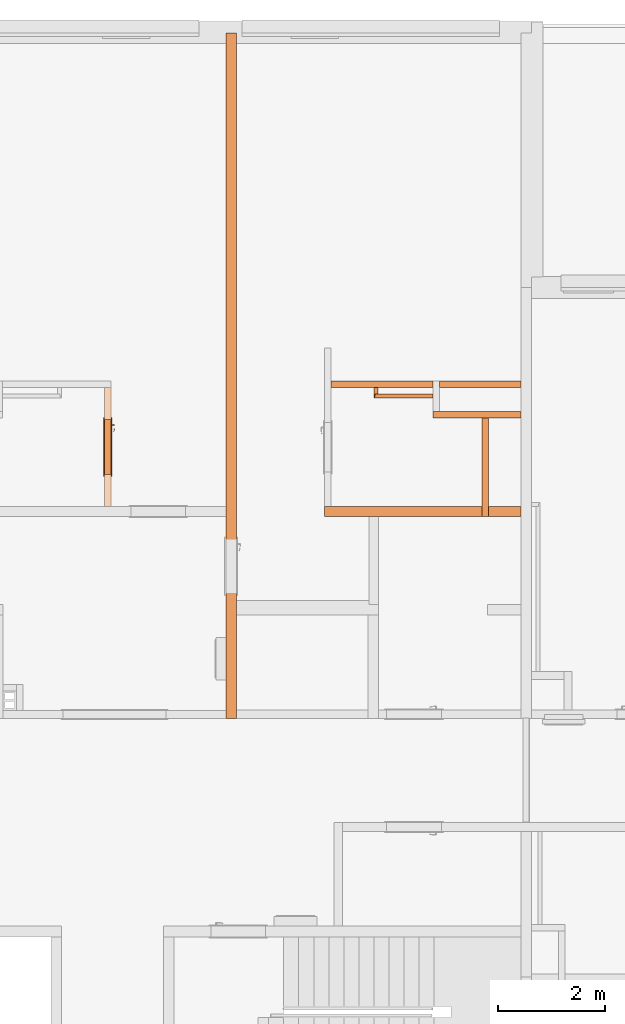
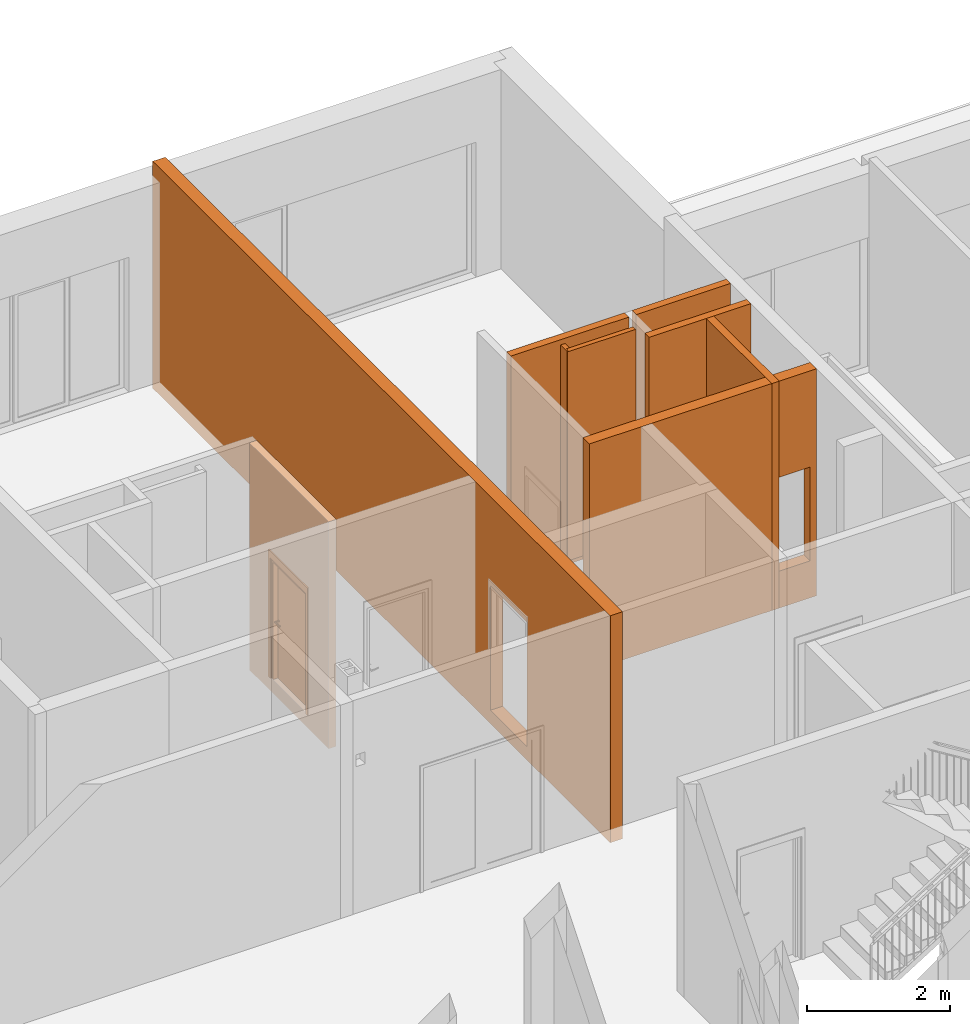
# One storey, part 42 of 46: 8 proxies, 3 openings, plus 1 element that does not belong to this part.
"""IFC2X3 building model written with IfcOpenShell, lengths in millimetres."""

from ifc_helpers import new_model, entity, si_unit, converted_unit, derived_unit, money_unit, direction, frame, origin_with_axes, origin_2d_with_axis, place, context, subcontext, project, spatial, rectangle, extrude, open_shell, faceted_brep, surface_model, material, material_list, type_object, element, fill, save


model = new_model("IFC2X3")

# Units and contexts
model_context = context("Model", 3, precision=0.01, world=origin_with_axes(), true_north=direction((0.34421633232, 0.938890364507)))
body_context = subcontext(model_context, "Body", "Model", "MODEL_VIEW")
ifc_project = project(units=[si_unit("LENGTHUNIT", "METRE", prefix="MILLI"), si_unit("AREAUNIT", "SQUARE_METRE"), si_unit("VOLUMEUNIT", "CUBIC_METRE"), converted_unit("PLANEANGLEUNIT", "DEGREE", entity("IfcPlaneAngleMeasure", 0.0174532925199), si_unit("PLANEANGLEUNIT", "RADIAN"), dimensions=[0, 0, 0, 0, 0, 0, 0]), si_unit("SOLIDANGLEUNIT", "STERADIAN"), money_unit("USD"), converted_unit("TIMEUNIT", "Year", entity("IfcTimeMeasure", 31556926.0), si_unit("TIMEUNIT", "SECOND"), dimensions=[0, 0, 1, 0, 0, 0, 0]), si_unit("MASSUNIT", "GRAM", prefix="KILO"), si_unit("THERMODYNAMICTEMPERATUREUNIT", "DEGREE_CELSIUS"), si_unit("LUMINOUSINTENSITYUNIT", "LUMEN"), si_unit("ENERGYUNIT", "JOULE", prefix="MEGA"), derived_unit("THERMALCONDUCTANCEUNIT", [(si_unit("POWERUNIT", "WATT"), 1), (si_unit("LENGTHUNIT", "METRE"), -1), (si_unit("THERMODYNAMICTEMPERATUREUNIT", "KELVIN"), -1)]), derived_unit("SPECIFICHEATCAPACITYUNIT", [(si_unit("ENERGYUNIT", "JOULE"), 1), (si_unit("MASSUNIT", "GRAM", prefix="KILO"), -1), (si_unit("THERMODYNAMICTEMPERATUREUNIT", "KELVIN"), -1)]), derived_unit("MASSDENSITYUNIT", [(si_unit("MASSUNIT", "GRAM", prefix="KILO"), 1), (si_unit("VOLUMEUNIT", "CUBIC_METRE"), -1)])], contexts=[model_context])

# Site, building, storey
site_placement = place(None, origin_with_axes())
site = spatial("IfcSite", under=ifc_project, at=site_placement, Name="USTRONIE MORSKIE", CompositionType="ELEMENT")
building_placement = place(site_placement, origin_with_axes())
building = spatial("IfcBuilding", under=site, at=building_placement, Name="Budynek", CompositionType="ELEMENT")
storey_placement = place(building_placement, origin_with_axes())
storey = spatial("IfcBuildingStorey", under=building, at=storey_placement, Name="PARTER", CompositionType="ELEMENT", Elevation=0.0)

# Proxy
ifc_material_1 = material(Name="Bloczki silikatowe")
building_element_proxy_type_1 = type_object("IfcBuildingElementProxyType", Name="Bloczki silikatowe 120", PredefinedType="NOTDEFINED")
proxy_1_placement = place(storey_placement, frame((396317.911316, 742431.199937, -230.0), z_axis=(0.0, 0.0, 1.0), x_axis=(-1.0, 0.0, 0.0)))
element("IfcBuildingElementProxy", 1, at=proxy_1_placement, inside=storey, type_object=building_element_proxy_type_1, material=ifc_material_1, Name="Ściana-010", context=body_context, shape_type="Brep", body=[
    faceted_brep([(1739.99039729, 59.9999999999, 0.0), (1739.99039729, -59.9999999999, 0.0), (99.9903972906, -59.9999999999, 0.0), (99.9903972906, 59.9999999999, 0.0), (1739.99039729, 59.9999999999, 3870.0), (1739.99039729, -59.9999999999, 3870.0), (99.9903972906, -59.9999999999, 3870.0), (99.9903972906, 59.9999999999, 3870.0)], [[[0, 1, 2, 3]], [[1, 0, 4, 5]], [[1, 5, 6, 2]], [[7, 3, 2, 6]], [[4, 0, 3, 7]], [[5, 4, 7, 6]]]),
])

# Proxies, opening
proxy_2_placement = place(storey_placement, frame((388517.920919, 743001.199021, -230.0), z_axis=(0.0, 0.0, 1.0), x_axis=(0.0, -1.0, 0.0)))
proxy_2 = element("IfcBuildingElementProxy", 2, at=proxy_2_placement, inside=storey, type_object=building_element_proxy_type_1, material=ifc_material_1, Name="SW-04", context=body_context, shape_type="Brep", body=[
    faceted_brep([(2279.99998521, -60.0, 3870.0), (2279.99998521, 60.0, 3870.0), (59.9999999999, 60.0, 3870.0), (59.9999999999, -60.0, 3870.0), (2279.99998521, -60.0, 0.0), (2279.99998521, 60.0, 0.0), (59.9999999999, 60.0, 0.0), (59.9999999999, -60.0, 0.0)], [[[0, 1, 2, 3]], [[1, 0, 4, 5]], [[1, 5, 6, 2]], [[7, 3, 2, 6]], [[4, 0, 3, 7]], [[5, 4, 7, 6]]]),
])
opening_1_placement = place(proxy_2_placement, frame((1170.0, 0.0, 230.0), z_axis=(0.0, 0.0, 1.0), x_axis=(1.0, 0.0, 0.0)))
opening_1 = element("IfcOpeningElement", 3, at=opening_1_placement, cuts=proxy_2, Name="Dw.4'", context=body_context, shape_type="SweptSolid", body=[
    extrude(rectangle(XDim=1020.0, YDim=2070.0, at=origin_2d_with_axis()), frame((0.0, -120.0, 1035.0), z_axis=(0.0, 1.0, 0.0), x_axis=(1.0, 0.0, 0.0)), (0.0, 0.0, 1.0), 360.0),
    extrude(rectangle(XDim=1094.0, YDim=2177.0, at=origin_2d_with_axis()), frame((0.0, -60.0, 1088.5), z_axis=(0.0, 1.0, 0.0), x_axis=(1.0, 0.0, 0.0)), (0.0, 0.0, -1.0), 120.0),
    extrude(rectangle(XDim=1094.0, YDim=2177.0, at=origin_2d_with_axis()), frame((0.0, 60.0, 1088.5), z_axis=(0.0, -1.0, 0.0), x_axis=(1.0, 0.0, 0.0)), (0.0, 0.0, -1.0), 120.0),
])
building_element_proxy_type_2 = type_object("IfcBuildingElementProxyType", Name="Drzwi 23", PredefinedType="NOTDEFINED")
proxy_3_placement = place(opening_1_placement, frame((-450.0, 0.0, 0.0), z_axis=(0.0, 0.0, 1.0), x_axis=(1.0, 0.0, 0.0)))
proxy_3 = element("IfcBuildingElementProxy", 4, at=proxy_3_placement, inside=storey, type_object=building_element_proxy_type_2, Name="Dw.4'", context=body_context, shape_type="SurfaceModel", body=[
    faceted_brep([(-59.9999999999, -55.0, 0.0), (-35.0, -55.0, 0.0), (-35.0, -60.0, 0.0), (-59.9999999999, -60.0, 0.0), (-59.9999999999, -55.0, 2070.0), (-35.0, -55.0, 2045.0), (-35.0, -60.0, 2045.0), (-59.9999999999, -60.0, 2070.0)], [[[0, 1, 2, 3]], [[0, 4, 5, 1]], [[1, 5, 6, 2]], [[3, 2, 6, 7]], [[4, 0, 3, 7]], [[5, 4, 7, 6]]]),
    faceted_brep([(960.0, -55.0, 2070.0), (935.0, -55.0, 2045.0), (935.0, -60.0, 2045.0), (960.0, -60.0, 2070.0), (960.0, -55.0, 0.0), (935.0, -55.0, 0.0), (935.0, -60.0, 0.0), (960.0, -60.0, 0.0)], [[[0, 1, 2, 3]], [[0, 4, 5, 1]], [[1, 5, 6, 2]], [[3, 2, 6, 7]], [[4, 0, 3, 7]], [[5, 4, 7, 6]]]),
    faceted_brep([(-35.0, -55.0, 2045.0), (935.0, -55.0, 2045.0), (935.0, -60.0, 2045.0), (-35.0, -60.0, 2045.0), (-59.9999999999, -55.0, 2070.0), (960.0, -55.0, 2070.0), (960.0, -60.0, 2070.0), (-59.9999999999, -60.0, 2070.0)], [[[0, 1, 2, 3]], [[0, 4, 5, 1]], [[1, 5, 6, 2]], [[3, 2, 6, 7]], [[4, 0, 3, 7]], [[5, 4, 7, 6]]]),
    faceted_brep([(-97.0, -79.0, 0.0), (-97.0, -60.0, 0.0), (-46.9999999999, -60.0, 0.0), (-46.9999999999, -79.0, 0.0), (-97.0, -79.0, 2177.0), (-97.0, -60.0, 2177.0), (-46.9999999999, -60.0, 2057.0), (-46.9999999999, -79.0, 2057.0)], [[[0, 1, 2, 3]], [[4, 5, 1, 0]], [[1, 5, 6, 2]], [[3, 2, 6, 7]], [[0, 3, 7, 4]], [[7, 6, 5, 4]]]),
    faceted_brep([(997.0, -79.0, 2177.0), (997.0, -60.0, 2177.0), (947.0, -60.0, 2057.0), (947.0, -79.0, 2057.0), (997.0, -79.0, 0.0), (997.0, -60.0, 0.0), (947.0, -60.0, 0.0), (947.0, -79.0, 0.0)], [[[0, 1, 2, 3]], [[4, 5, 1, 0]], [[1, 5, 6, 2]], [[3, 2, 6, 7]], [[0, 3, 7, 4]], [[7, 6, 5, 4]]]),
    faceted_brep([(-97.0, -79.0, 2177.0), (-97.0, -60.0, 2177.0), (-46.9999999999, -60.0, 2057.0), (-46.9999999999, -79.0, 2057.0), (997.0, -79.0, 2177.0), (997.0, -60.0, 2177.0), (947.0, -60.0, 2057.0), (947.0, -79.0, 2057.0)], [[[0, 1, 2, 3]], [[4, 5, 1, 0]], [[1, 5, 6, 2]], [[3, 2, 6, 7]], [[0, 3, 7, 4]], [[7, 6, 5, 4]]]),
    faceted_brep([(-97.0, 79.0, 0.0), (-46.9999999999, 79.0, 0.0), (-46.9999999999, 60.0, 0.0), (-97.0, 60.0, 0.0), (-97.0, 79.0, 2177.0), (-46.9999999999, 79.0, 2057.0), (-46.9999999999, 60.0, 2057.0), (-97.0, 60.0, 2177.0)], [[[0, 1, 2, 3]], [[0, 4, 5, 1]], [[1, 5, 6, 2]], [[3, 2, 6, 7]], [[4, 0, 3, 7]], [[5, 4, 7, 6]]]),
    faceted_brep([(997.0, 79.0, 2177.0), (947.0, 79.0, 2057.0), (947.0, 60.0, 2057.0), (997.0, 60.0, 2177.0), (997.0, 79.0, 0.0), (947.0, 79.0, 0.0), (947.0, 60.0, 0.0), (997.0, 60.0, 0.0)], [[[0, 1, 2, 3]], [[0, 4, 5, 1]], [[1, 5, 6, 2]], [[3, 2, 6, 7]], [[4, 0, 3, 7]], [[5, 4, 7, 6]]]),
    faceted_brep([(-97.0, 79.0, 2177.0), (-46.9999999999, 79.0, 2057.0), (-46.9999999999, 60.0, 2057.0), (-97.0, 60.0, 2177.0), (997.0, 79.0, 2177.0), (947.0, 79.0, 2057.0), (947.0, 60.0, 2057.0), (997.0, 60.0, 2177.0)], [[[0, 1, 2, 3]], [[0, 4, 5, 1]], [[1, 5, 6, 2]], [[3, 2, 6, 7]], [[4, 0, 3, 7]], [[5, 4, 7, 6]]]),
    faceted_brep([(0.0, 20.0, 0.0), (0.0, 20.0, 2000.0), (0.0, -55.0, 2000.0), (0.0, -55.0, 0.0), (-11.9999999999, 20.0, 2000.0), (-11.9999999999, 20.0, 0.0), (-11.9999999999, 60.0, 2000.0), (-59.9999999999, 60.0, 2000.0), (-59.9999999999, -55.0, 2000.0), (-59.9999999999, -55.0, 0.0), (-59.9999999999, 60.0, 0.0), (-11.9999999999, 60.0, 0.0)], [[[0, 1, 2, 3]], [[4, 1, 0, 5]], [[4, 6, 7, 8, 2, 1]], [[3, 2, 8, 9]], [[5, 0, 3, 9, 10, 11]], [[6, 4, 5, 11]], [[6, 11, 10, 7]], [[10, 9, 8, 7]]]),
    faceted_brep([(912.0, 20.0, 2000.0), (900.0, 20.0, 2000.0), (900.0, -55.0, 2000.0), (960.0, -55.0, 2000.0), (960.0, 60.0, 2000.0), (912.0, 60.0, 2000.0), (912.0, 20.0, 0.0), (900.0, 20.0, 0.0), (900.0, -55.0, 0.0), (960.0, -55.0, 0.0), (960.0, 60.0, 0.0), (912.0, 60.0, 0.0)], [[[0, 1, 2, 3, 4, 5]], [[1, 0, 6, 7]], [[1, 7, 8, 2]], [[3, 2, 8, 9]], [[4, 3, 9, 10]], [[11, 5, 4, 10]], [[0, 5, 11, 6]], [[6, 11, 10, 9, 8, 7]]]),
    faceted_brep([(-11.9999999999, 60.0, 2012.0), (-11.9999999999, 60.0, 2000.0), (-59.9999999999, 60.0, 2000.0), (-59.9999999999, 60.0, 2070.0), (960.0, 60.0, 2070.0), (960.0, 60.0, 2000.0), (912.0, 60.0, 2000.0), (912.0, 60.0, 2012.0), (-11.9999999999, 20.0, 2012.0), (-11.9999999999, 20.0, 2000.0), (0.0, 20.0, 2000.0), (0.0, -55.0, 2000.0), (-59.9999999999, -55.0, 2000.0), (-59.9999999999, -55.0, 2070.0), (960.0, -55.0, 2070.0), (960.0, -55.0, 2000.0), (912.0, 20.0, 2000.0), (900.0, -55.0, 2000.0), (900.0, 20.0, 2000.0), (912.0, 20.0, 2012.0)], [[[0, 1, 2, 3, 4, 5, 6, 7]], [[1, 0, 8, 9]], [[9, 10, 11, 12, 2, 1]], [[2, 12, 13, 3]], [[3, 13, 14, 4]], [[4, 14, 15, 5]], [[16, 6, 5, 15, 17, 18]], [[7, 6, 16, 19]], [[0, 7, 19, 8]], [[16, 18, 10, 9, 8, 19]], [[10, 18, 17, 11]], [[17, 15, 14, 13, 12, 11]]]),
    faceted_brep([(9.5, 20.0, 1060.0), (9.5, 17.0, 1060.0), (66.5, 17.0, 1060.0), (66.5, 20.0, 1060.0), (9.5, 20.0, 870.0), (9.5, 17.0, 870.0), (66.5, 17.0, 870.0), (66.5, 20.0, 870.0)], [[[0, 1, 2, 3]], [[4, 5, 1, 0]], [[1, 5, 6, 2]], [[3, 2, 6, 7]], [[0, 3, 7, 4]], [[7, 6, 5, 4]]]),
    faceted_brep([(38.0, -44.0, 990.0), (38.0, -51.0, 990.0), (33.0, -51.0, 991.339745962), (33.0, -44.0, 991.339745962), (63.0000000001, -44.0, 990.0), (63.0000000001, -51.0, 990.0), (63.0000000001, -51.0, 1010.0), (38.0, -51.0, 1010.0), (33.0, -51.0, 1008.66025404), (29.3397459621, -51.0, 1005.0), (28.0, -51.0, 1000.0), (29.3397459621, -51.0, 995.0), (29.3397459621, -44.0, 995.0), (28.0, -44.0, 1000.0), (29.3397459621, -44.0, 1005.0), (33.0, -44.0, 1008.66025404), (38.0, -44.0, 1010.0), (63.0000000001, -44.0, 1010.0)], [[[0, 1, 2, 3]], [[4, 5, 1, 0]], [[1, 5, 6, 7, 8, 9, 10, 11, 2]], [[3, 2, 11, 12]], [[0, 3, 12, 13, 14, 15, 16, 17, 4]], [[17, 6, 5, 4]], [[16, 7, 6, 17]], [[15, 8, 7, 16]], [[14, 9, 8, 15]], [[13, 10, 9, 14]], [[12, 11, 10, 13]]]),
    surface_model("IfcShellBasedSurfaceModel", [(63.0000000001, -44.0, 1010.0), (76.403909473, -51.0, 1009.60730092), (76.0982828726, -44.0, 1009.60730092), (63.0000000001, -51.0, 1010.0), (103.109716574, -48.6635446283, 1008.82190275), (76.0982828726, -44.0, 990.392699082), (63.0000000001, -44.0, 990.0), (63.0000000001, -51.0, 990.0), (76.403909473, -51.0, 990.392699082), (103.109716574, -48.6635446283, 991.178097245), (102.195162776, -41.716818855, 1008.82190275), (102.195162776, -41.716818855, 991.178097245), (129.510264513, -44.0084157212, 991.963495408), (129.510264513, -44.0084157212, 1008.03650459), (127.993743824, -37.1678329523, 1008.03650459), (127.993743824, -37.1678329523, 991.963495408), (155.40462918, -37.0700416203, 992.748893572), (155.40462918, -37.0700416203, 1007.25110643), (153.297683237, -30.3876628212, 1007.25110643), (153.297683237, -30.3876628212, 992.748893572), (163.461204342, -34.1376880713, 993.0), (163.461204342, -34.1376880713, 1007.0), (161.170557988, -27.5221707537, 1007.0), (161.170557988, -27.5221707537, 993.0)], [open_shell([[[0, 1, 2]], [[0, 3, 1]], [[2, 1, 4]], [[0, 2, 5, 6]], [[3, 7, 8, 1]], [[1, 8, 9, 4]], [[2, 4, 10]], [[2, 10, 11, 5]], [[5, 7, 6]], [[5, 8, 7]], [[11, 9, 8]], [[4, 9, 12, 13]], [[10, 4, 13]], [[10, 14, 15, 11]], [[11, 8, 5]], [[15, 9, 11]], [[15, 12, 9]], [[13, 12, 16, 17]], [[10, 13, 14]], [[14, 18, 19, 15]], [[19, 12, 15]], [[19, 16, 12]], [[17, 16, 20, 21]], [[14, 13, 17]], [[14, 17, 18]], [[18, 22, 23, 19]], [[23, 16, 19]], [[23, 20, 16]], [[22, 21, 20, 23]], [[18, 17, 21]], [[18, 21, 22]]])]),
    faceted_brep([(48.3923048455, 7.00000000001, 994.0), (49.2583302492, 17.0, 993.5), (51.0, 17.0, 1000.0), (50.0000000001, 7.00000000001, 1000.0), (44.0000000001, 7.00000000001, 989.607695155), (44.5000000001, 17.0, 988.741669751), (38.0, 17.0, 987.0), (31.5000000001, 17.0, 988.741669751), (26.7416697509, 17.0, 993.5), (25.0000000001, 17.0, 1000.0), (26.7416697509, 17.0, 1006.5), (31.5000000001, 17.0, 1011.25833025), (38.0, 17.0, 1013.0), (44.5000000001, 17.0, 1011.25833025), (49.2583302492, 17.0, 1006.5), (48.3923048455, 7.00000000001, 1006.0), (44.0000000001, 7.00000000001, 1010.39230485), (38.0, 7.00000000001, 1012.0), (32.0, 7.00000000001, 1010.39230485), (27.6076951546, 7.00000000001, 1006.0), (26.0000000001, 7.00000000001, 1000.0), (27.6076951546, 7.00000000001, 994.0), (32.0, 7.00000000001, 989.607695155), (38.0, 7.00000000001, 988.0)], [[[0, 1, 2, 3]], [[4, 5, 1, 0]], [[2, 1, 5, 6, 7, 8, 9, 10, 11, 12, 13, 14]], [[3, 2, 14, 15]], [[3, 15, 16, 17, 18, 19, 20, 21, 22, 23, 4, 0]], [[23, 6, 5, 4]], [[22, 7, 6, 23]], [[21, 8, 7, 22]], [[20, 9, 8, 21]], [[19, 10, 9, 20]], [[18, 11, 10, 19]], [[17, 12, 11, 18]], [[16, 13, 12, 17]], [[15, 14, 13, 16]]]),
    faceted_brep([(55.3205080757, 13.0, 895.0), (57.0525588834, 17.0, 894.0), (60.0000000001, 17.0, 905.0), (58.0, 13.0, 905.0), (48.0, 13.0, 887.679491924), (49.0000000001, 17.0, 885.947441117), (38.0, 17.0, 883.0), (27.0, 17.0, 885.947441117), (18.9474411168, 17.0, 894.0), (16.0000000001, 17.0, 905.0), (18.9474411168, 17.0, 916.0), (27.0, 17.0, 924.052558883), (38.0, 17.0, 927.0), (49.0000000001, 17.0, 924.052558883), (57.0525588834, 17.0, 916.0), (55.3205080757, 13.0, 915.0), (48.0, 13.0, 922.320508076), (38.0, 13.0, 925.0), (28.0, 13.0, 922.320508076), (20.6794919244, 13.0, 915.0), (18.0, 13.0, 905.0), (20.6794919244, 13.0, 895.0), (28.0, 13.0, 887.679491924), (38.0, 13.0, 885.0)], [[[0, 1, 2, 3]], [[4, 5, 1, 0]], [[2, 1, 5, 6, 7, 8, 9, 10, 11, 12, 13, 14]], [[3, 2, 14, 15]], [[3, 15, 16, 17, 18, 19, 20, 21, 22, 23, 4, 0]], [[23, 6, 5, 4]], [[22, 7, 6, 23]], [[21, 8, 7, 22]], [[20, 9, 8, 21]], [[19, 10, 9, 20]], [[18, 11, 10, 19]], [[17, 12, 11, 18]], [[16, 13, 12, 17]], [[15, 14, 13, 16]]]),
    faceted_brep([(42.9497474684, 11.0, 909.050252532), (43.6568542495, 13.0, 908.343145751), (46.0, 13.0, 914.0), (45.0000000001, 11.0, 914.0), (38.0, 11.0, 907.0), (38.0, 13.0, 906.0), (32.3431457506, 13.0, 908.343145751), (30.0000000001, 13.0, 914.0), (32.3431457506, 13.0, 919.656854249), (38.0, 13.0, 922.0), (43.6568542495, 13.0, 919.656854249), (42.9497474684, 11.0, 918.949747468), (38.0, 11.0, 921.0), (33.0502525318, 11.0, 918.949747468), (31.0000000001, 11.0, 914.0), (33.0502525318, 11.0, 909.050252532)], [[[0, 1, 2, 3]], [[4, 5, 1, 0]], [[2, 1, 5, 6, 7, 8, 9, 10]], [[3, 2, 10, 11]], [[3, 11, 12, 13, 14, 15, 4, 0]], [[15, 6, 5, 4]], [[14, 7, 6, 15]], [[13, 8, 7, 14]], [[12, 9, 8, 13]], [[11, 10, 9, 12]]]),
    faceted_brep([(38.0, 7.00000000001, 1010.0), (38.0, -44.0, 1010.0), (43.0, -44.0, 1008.66025404), (43.0, 7.00000000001, 1008.66025404), (33.0, 7.00000000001, 1008.66025404), (33.0, -44.0, 1008.66025404), (29.3397459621, -44.0, 1005.0), (28.0, -44.0, 1000.0), (29.3397459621, -44.0, 995.0), (33.0, -44.0, 991.339745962), (38.0, -44.0, 990.0), (43.0, -44.0, 991.339745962), (46.6602540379, -44.0, 995.0), (48.0, -44.0, 1000.0), (46.6602540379, -44.0, 1005.0), (46.6602540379, 7.00000000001, 1005.0), (48.0, 7.00000000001, 1000.0), (46.6602540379, 7.00000000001, 995.0), (43.0, 7.00000000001, 991.339745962), (38.0, 7.00000000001, 990.0), (33.0, 7.00000000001, 991.339745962), (29.3397459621, 7.00000000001, 995.0), (28.0, 7.00000000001, 1000.0), (29.3397459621, 7.00000000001, 1005.0)], [[[0, 1, 2, 3]], [[4, 5, 1, 0]], [[1, 5, 6, 7, 8, 9, 10, 11, 12, 13, 14, 2]], [[3, 2, 14, 15]], [[0, 3, 15, 16, 17, 18, 19, 20, 21, 22, 23, 4]], [[23, 6, 5, 4]], [[22, 7, 6, 23]], [[21, 8, 7, 22]], [[20, 9, 8, 21]], [[19, 10, 9, 20]], [[18, 11, 10, 19]], [[17, 12, 11, 18]], [[16, 13, 12, 17]], [[15, 14, 13, 16]]]),
    faceted_brep([(9.5, 60.0, 1060.0), (66.5, 60.0, 1060.0), (66.5, 63.0, 1060.0), (9.5, 63.0, 1060.0), (9.5, 60.0, 870.0), (66.5, 60.0, 870.0), (66.5, 63.0, 870.0), (9.5, 63.0, 870.0)], [[[0, 1, 2, 3]], [[0, 4, 5, 1]], [[1, 5, 6, 2]], [[3, 2, 6, 7]], [[4, 0, 3, 7]], [[5, 4, 7, 6]]]),
    faceted_brep([(38.0, 124.0, 990.0), (33.0, 124.0, 991.339745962), (33.0, 131.0, 991.339745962), (38.0, 131.0, 990.0), (63.0000000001, 124.0, 990.0), (63.0000000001, 124.0, 1010.0), (38.0, 124.0, 1010.0), (33.0, 124.0, 1008.66025404), (29.3397459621, 124.0, 1005.0), (28.0, 124.0, 1000.0), (29.3397459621, 124.0, 995.0), (29.3397459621, 131.0, 995.0), (28.0, 131.0, 1000.0), (29.3397459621, 131.0, 1005.0), (33.0, 131.0, 1008.66025404), (38.0, 131.0, 1010.0), (63.0000000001, 131.0, 1010.0), (63.0000000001, 131.0, 990.0)], [[[0, 1, 2, 3]], [[0, 4, 5, 6, 7, 8, 9, 10, 1]], [[1, 10, 11, 2]], [[3, 2, 11, 12, 13, 14, 15, 16, 17]], [[4, 0, 3, 17]], [[5, 4, 17, 16]], [[6, 5, 16, 15]], [[7, 6, 15, 14]], [[8, 7, 14, 13]], [[9, 8, 13, 12]], [[10, 9, 12, 11]]]),
    surface_model("IfcShellBasedSurfaceModel", [(63.0000000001, 124.0, 1010.0), (76.0982828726, 124.0, 1009.60730092), (76.403909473, 131.0, 1009.60730092), (63.0000000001, 124.0, 990.0), (76.0982828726, 124.0, 990.392699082), (103.109716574, 128.663544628, 1008.82190275), (63.0000000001, 131.0, 1010.0), (63.0000000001, 131.0, 990.0), (102.195162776, 121.716818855, 991.178097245), (102.195162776, 121.716818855, 1008.82190275), (103.109716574, 128.663544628, 991.178097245), (76.403909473, 131.0, 990.392699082), (127.993743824, 117.167832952, 991.963495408), (127.993743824, 117.167832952, 1008.03650459), (129.510264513, 124.008415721, 1008.03650459), (129.510264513, 124.008415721, 991.963495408), (153.297683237, 110.387662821, 992.748893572), (153.297683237, 110.387662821, 1007.25110643), (155.40462918, 117.07004162, 1007.25110643), (155.40462918, 117.07004162, 992.748893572), (161.170557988, 107.522170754, 993.0), (161.170557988, 107.522170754, 1007.0), (163.461204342, 114.137688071, 1007.0), (163.461204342, 114.137688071, 993.0)], [open_shell([[[0, 1, 2]], [[0, 3, 4, 1]], [[1, 5, 2]], [[0, 2, 6]], [[4, 3, 7]], [[1, 4, 8, 9]], [[1, 9, 5]], [[2, 5, 10, 11]], [[6, 2, 11, 7]], [[4, 7, 11]], [[8, 4, 11]], [[9, 8, 12, 13]], [[9, 14, 5]], [[5, 14, 15, 10]], [[8, 11, 10]], [[12, 8, 10]], [[13, 12, 16, 17]], [[9, 13, 14]], [[14, 18, 19, 15]], [[12, 10, 15]], [[16, 12, 15]], [[17, 16, 20, 21]], [[13, 17, 18]], [[13, 18, 14]], [[18, 22, 23, 19]], [[16, 15, 19]], [[20, 16, 19]], [[21, 20, 23, 22]], [[17, 21, 22]], [[17, 22, 18]], [[20, 19, 23]]])]),
    faceted_brep([(48.3923048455, 73.0, 994.0), (50.0000000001, 73.0, 1000.0), (51.0, 63.0, 1000.0), (49.2583302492, 63.0, 993.5), (44.0000000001, 73.0, 989.607695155), (38.0, 73.0, 988.0), (32.0, 73.0, 989.607695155), (27.6076951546, 73.0, 994.0), (26.0000000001, 73.0, 1000.0), (27.6076951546, 73.0, 1006.0), (32.0, 73.0, 1010.39230485), (38.0, 73.0, 1012.0), (44.0000000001, 73.0, 1010.39230485), (48.3923048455, 73.0, 1006.0), (49.2583302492, 63.0, 1006.5), (44.5000000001, 63.0, 1011.25833025), (38.0, 63.0, 1013.0), (31.5000000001, 63.0, 1011.25833025), (26.7416697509, 63.0, 1006.5), (25.0000000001, 63.0, 1000.0), (26.7416697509, 63.0, 993.5), (31.5000000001, 63.0, 988.741669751), (38.0, 63.0, 987.0), (44.5000000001, 63.0, 988.741669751)], [[[0, 1, 2, 3]], [[1, 0, 4, 5, 6, 7, 8, 9, 10, 11, 12, 13]], [[1, 13, 14, 2]], [[2, 14, 15, 16, 17, 18, 19, 20, 21, 22, 23, 3]], [[4, 0, 3, 23]], [[5, 4, 23, 22]], [[6, 5, 22, 21]], [[7, 6, 21, 20]], [[8, 7, 20, 19]], [[9, 8, 19, 18]], [[10, 9, 18, 17]], [[11, 10, 17, 16]], [[12, 11, 16, 15]], [[13, 12, 15, 14]]]),
    faceted_brep([(55.3205080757, 67.0, 895.0), (58.0, 67.0, 905.0), (60.0000000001, 63.0, 905.0), (57.0525588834, 63.0, 894.0), (48.0, 67.0, 887.679491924), (38.0, 67.0, 885.0), (28.0, 67.0, 887.679491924), (20.6794919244, 67.0, 895.0), (18.0, 67.0, 905.0), (20.6794919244, 67.0, 915.0), (28.0, 67.0, 922.320508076), (38.0, 67.0, 925.0), (48.0, 67.0, 922.320508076), (55.3205080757, 67.0, 915.0), (57.0525588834, 63.0, 916.0), (49.0000000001, 63.0, 924.052558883), (38.0, 63.0, 927.0), (27.0, 63.0, 924.052558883), (18.9474411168, 63.0, 916.0), (16.0000000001, 63.0, 905.0), (18.9474411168, 63.0, 894.0), (27.0, 63.0, 885.947441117), (38.0, 63.0, 883.0), (49.0000000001, 63.0, 885.947441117)], [[[0, 1, 2, 3]], [[1, 0, 4, 5, 6, 7, 8, 9, 10, 11, 12, 13]], [[1, 13, 14, 2]], [[2, 14, 15, 16, 17, 18, 19, 20, 21, 22, 23, 3]], [[4, 0, 3, 23]], [[5, 4, 23, 22]], [[6, 5, 22, 21]], [[7, 6, 21, 20]], [[8, 7, 20, 19]], [[9, 8, 19, 18]], [[10, 9, 18, 17]], [[11, 10, 17, 16]], [[12, 11, 16, 15]], [[13, 12, 15, 14]]]),
    faceted_brep([(42.9497474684, 69.0, 909.050252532), (45.0000000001, 69.0, 914.0), (46.0, 67.0, 914.0), (43.6568542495, 67.0, 908.343145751), (38.0, 69.0, 907.0), (33.0502525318, 69.0, 909.050252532), (31.0000000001, 69.0, 914.0), (33.0502525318, 69.0, 918.949747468), (38.0, 69.0, 921.0), (42.9497474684, 69.0, 918.949747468), (43.6568542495, 67.0, 919.656854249), (38.0, 67.0, 922.0), (32.3431457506, 67.0, 919.656854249), (30.0000000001, 67.0, 914.0), (32.3431457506, 67.0, 908.343145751), (38.0, 67.0, 906.0)], [[[0, 1, 2, 3]], [[1, 0, 4, 5, 6, 7, 8, 9]], [[1, 9, 10, 2]], [[2, 10, 11, 12, 13, 14, 15, 3]], [[4, 0, 3, 15]], [[5, 4, 15, 14]], [[6, 5, 14, 13]], [[7, 6, 13, 12]], [[8, 7, 12, 11]], [[9, 8, 11, 10]]]),
    faceted_brep([(38.0, 73.0, 1010.0), (43.0, 73.0, 1008.66025404), (43.0, 124.0, 1008.66025404), (38.0, 124.0, 1010.0), (33.0, 73.0, 1008.66025404), (29.3397459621, 73.0, 1005.0), (28.0, 73.0, 1000.0), (29.3397459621, 73.0, 995.0), (33.0, 73.0, 991.339745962), (38.0, 73.0, 990.0), (43.0, 73.0, 991.339745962), (46.6602540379, 73.0, 995.0), (48.0, 73.0, 1000.0), (46.6602540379, 73.0, 1005.0), (46.6602540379, 124.0, 1005.0), (48.0, 124.0, 1000.0), (46.6602540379, 124.0, 995.0), (43.0, 124.0, 991.339745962), (38.0, 124.0, 990.0), (33.0, 124.0, 991.339745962), (29.3397459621, 124.0, 995.0), (28.0, 124.0, 1000.0), (29.3397459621, 124.0, 1005.0), (33.0, 124.0, 1008.66025404)], [[[0, 1, 2, 3]], [[0, 4, 5, 6, 7, 8, 9, 10, 11, 12, 13, 1]], [[1, 13, 14, 2]], [[3, 2, 14, 15, 16, 17, 18, 19, 20, 21, 22, 23]], [[4, 0, 3, 23]], [[5, 4, 23, 22]], [[6, 5, 22, 21]], [[7, 6, 21, 20]], [[8, 7, 20, 19]], [[9, 8, 19, 18]], [[10, 9, 18, 17]], [[11, 10, 17, 16]], [[12, 11, 16, 15]], [[13, 12, 15, 14]]]),
    faceted_brep([(912.0, 60.0, 0.0), (912.0, 20.0, 0.0), (-11.9999999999, 20.0, 0.0), (-11.9999999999, 60.0, 0.0), (912.0, 60.0, 2012.0), (912.0, 20.0, 2012.0), (-11.9999999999, 20.0, 2012.0), (-11.9999999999, 60.0, 2012.0)], [[[0, 1, 2, 3]], [[4, 5, 1, 0]], [[1, 5, 6, 2]], [[3, 2, 6, 7]], [[0, 3, 7, 4]], [[7, 6, 5, 4]]]),
])
fill(opening_1, proxy_3)

# Proxies
proxy_4_placement = place(storey_placement, frame((392617.911316, 743001.199021, -230.0), z_axis=(0.0, 0.0, 1.0), x_axis=(1.0, 0.0, 0.0)))
element("IfcBuildingElementProxy", 5, at=proxy_4_placement, inside=storey, type_object=building_element_proxy_type_1, material=ifc_material_1, Name="SW-04", context=body_context, shape_type="Brep", body=[
    faceted_brep([(1960.00960271, 59.9999999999, 0.0), (1960.00960271, -59.9999999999, 0.0), (60.0, -59.9999999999, 0.0), (60.0, 59.9999999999, 0.0), (1960.00960271, 59.9999999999, 3870.0), (1960.00960271, -59.9999999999, 3870.0), (60.0, -59.9999999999, 3870.0), (60.0, 59.9999999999, 3870.0)], [[[0, 1, 2, 3]], [[1, 0, 4, 5]], [[1, 5, 6, 2]], [[7, 3, 2, 6]], [[4, 0, 3, 7]], [[5, 4, 7, 6]]]),
    faceted_brep([(3600.00960271, 59.9999999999, 0.0), (3600.00960271, -59.9999999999, 0.0), (2080.00960271, -59.9999999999, 0.0), (2080.00960271, 59.9999999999, 0.0), (3600.00960271, 59.9999999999, 3870.0), (3600.00960271, -59.9999999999, 3870.0), (2080.00960271, -59.9999999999, 3870.0), (2080.00960271, 59.9999999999, 3870.0)], [[[0, 1, 2, 3]], [[1, 0, 4, 5]], [[1, 5, 6, 2]], [[7, 3, 2, 6]], [[4, 0, 3, 7]], [[5, 4, 7, 6]]]),
])
proxy_5_placement = place(storey_placement, frame((395557.917512, 740631.199036, -230.0), z_axis=(0.0, 0.0, 1.0), x_axis=(0.0, 1.0, 0.0)))
element("IfcBuildingElementProxy", 6, at=proxy_5_placement, inside=storey, type_object=building_element_proxy_type_1, material=ifc_material_1, Name="Ściana-010", context=body_context, shape_type="Brep", body=[
    faceted_brep([(1740.00090117, 60.0, 0.0), (1740.00090117, -60.0, 0.0), (-90.0, -60.0, 0.0), (-90.0, 60.0, 0.0), (1740.00090117, 60.0, 3870.0), (1740.00090117, -60.0, 3870.0), (-90.0, -60.0, 3870.0), (-90.0, 60.0, 3870.0)], [[[0, 1, 2, 3]], [[1, 0, 4, 5]], [[1, 5, 6, 2]], [[7, 3, 2, 6]], [[4, 0, 3, 7]], [[5, 4, 7, 6]]]),
])

# Proxy, opening
building_element_proxy_type_3 = type_object("IfcBuildingElementProxyType", Name="Bloczki silikatowe 180", PredefinedType="NOTDEFINED")
proxy_6_placement = place(storey_placement, frame((396317.917408, 740631.199036, -230.0), z_axis=(0.0, 0.0, 1.0), x_axis=(-1.0, 0.0, 0.0)))
proxy_6 = element("IfcBuildingElementProxy", 7, at=proxy_6_placement, inside=storey, type_object=building_element_proxy_type_3, material=ifc_material_1, Name="SW-02", context=body_context, shape_type="Brep", body=[
    faceted_brep([(3760.0060914, -90.0, 3870.0), (3760.0060914, 90.0, 3870.0), (819.9998961, 90.0, 3870.0), (819.9998961, -90.0, 3870.0), (3760.0060914, -90.0, 0.0), (3760.0060914, 90.0, 0.0), (819.9998961, 90.0, 0.0), (819.9998961, -90.0, 0.0)], [[[0, 1, 2, 3]], [[1, 0, 4, 5]], [[1, 5, 6, 2]], [[7, 3, 2, 6]], [[4, 0, 3, 7]], [[5, 4, 7, 6]]]),
    faceted_brep([(699.9998961, -90.0, 3870.0), (699.9998961, 90.0, 3870.0), (99.9964886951, 90.0, 3870.0), (99.9964886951, -90.0, 3870.0), (699.9998961, -90.0, 0.0), (699.9998961, 90.0, 0.0), (99.9964886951, 90.0, 0.0), (99.9964886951, -90.0, 0.0)], [[[0, 1, 2, 3]], [[1, 0, 4, 5]], [[1, 5, 6, 2]], [[7, 3, 2, 6]], [[4, 0, 3, 7]], [[5, 4, 7, 6]]]),
])
opening_2_placement = place(proxy_6_placement, frame((449.998987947, 0.0, 630.0), z_axis=(0.0, 0.0, 1.0), x_axis=(1.0, 0.0, 0.0)))
element("IfcOpeningElement", 8, at=opening_2_placement, cuts=proxy_6, Name="xx", context=body_context, shape_type="SweptSolid", body=[
    extrude(rectangle(XDim=500.001816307, YDim=1600.0, at=origin_2d_with_axis()), frame((0.0, 89.9999999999, 800.0), z_axis=(0.0, -1.0, 0.0), x_axis=(1.0, 0.0, 0.0)), (0.0, 0.0, -1.0), 180.0),
    extrude(rectangle(XDim=500.001816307, YDim=1600.0, at=origin_2d_with_axis()), frame((0.0, 89.9999999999, 800.0), z_axis=(0.0, 1.0, 0.0), x_axis=(1.0, 0.0, 0.0)), (0.0, 0.0, -1.0), 180.0),
])

# Proxies
ifc_material_2 = material(Name="Płyta GK")
ifc_material_3 = material(Name="-Pustka powietrzna")
ifc_material_list_1 = material_list([ifc_material_2, ifc_material_2, ifc_material_3])
building_element_proxy_type_4 = type_object("IfcBuildingElementProxyType", Name="330-SD GK 2-warstwy 75", PredefinedType="NOTDEFINED")
proxy_7_placement = place(storey_placement, frame((393502.920919, 742771.199021, -160.0), z_axis=(0.0, 0.0, 1.0), x_axis=(0.0, 1.0, 0.0)))
element("IfcBuildingElementProxy", 9, at=proxy_7_placement, inside=storey, type_object=building_element_proxy_type_4, material=ifc_material_list_1, Name="Ściana-009", context=body_context, shape_type="Brep", body=[
    faceted_brep([(-12.5, 12.5, 145.0), (170.0, 12.5, 145.0), (170.0, 12.5, 3710.0), (-12.5, 12.5, 3710.0), (170.0, 25.0, 145.0), (-12.5, 25.0, 145.0), (170.0, 25.0, 3710.0), (-12.5, 25.0, 3710.0)], [[[0, 1, 2, 3]], [[4, 1, 0, 5]], [[1, 4, 6, 2]], [[2, 6, 7, 3]], [[5, 0, 3, 7]], [[4, 5, 7, 6]]]),
    faceted_brep([(0.0, 0.0, 145.0), (170.0, 0.0, 145.0), (170.0, 0.0, 3710.0), (0.0, 0.0, 3710.0), (170.0, 12.5, 145.0), (0.0, 12.5, 145.0), (170.0, 12.5, 3710.0), (0.0, 12.5, 3710.0)], [[[0, 1, 2, 3]], [[4, 1, 0, 5]], [[1, 4, 6, 2]], [[2, 6, 7, 3]], [[5, 0, 3, 7]], [[4, 5, 7, 6]]]),
    faceted_brep([(50.0, -50.0, 160.0), (170.0, -50.0, 160.0), (170.0, -50.0, 3710.0), (50.0, -50.0, 3710.0), (170.0, 0.0, 160.0), (50.0, 0.0, 160.0), (170.0, 0.0, 3710.0), (50.0, 0.0, 3710.0)], [[[0, 1, 2, 3]], [[4, 1, 0, 5]], [[1, 4, 6, 2]], [[2, 6, 7, 3]], [[5, 0, 3, 7]], [[4, 5, 7, 6]]]),
])
ifc_material_list_2 = material_list([ifc_material_3, ifc_material_2, ifc_material_2])
proxy_8_placement = place(storey_placement, frame((393502.920919, 742771.199021, -160.0), z_axis=(0.0, 0.0, 1.0), x_axis=(1.0, 0.0, 0.0)))
element("IfcBuildingElementProxy", 10, at=proxy_8_placement, inside=storey, type_object=building_element_proxy_type_4, material=ifc_material_list_2, Name="Ściana-009", context=body_context, shape_type="Brep", body=[
    faceted_brep([(1075.0, 0.0, 160.0), (1075.0, 50.0, 160.0), (1075.0, 50.0, 3710.0), (1075.0, 0.0, 3710.0), (0.0, 50.0, 160.0), (0.0, 0.0, 160.0), (0.0, 50.0, 3710.0), (0.0, 0.0, 3710.0)], [[[0, 1, 2, 3]], [[4, 1, 0, 5]], [[1, 4, 6, 2]], [[3, 2, 6, 7]], [[5, 0, 3, 7]], [[4, 5, 7, 6]]]),
    faceted_brep([(1075.0, -12.5, 145.0), (1075.0, 0.0, 145.0), (1075.0, 0.0, 3710.0), (1075.0, -12.5, 3710.0), (-12.5, 0.0, 145.0), (-12.5, -12.5, 145.0), (-12.5, 0.0, 3710.0), (-12.5, -12.5, 3710.0)], [[[0, 1, 2, 3]], [[4, 1, 0, 5]], [[1, 4, 6, 2]], [[3, 2, 6, 7]], [[5, 0, 3, 7]], [[4, 5, 7, 6]]]),
    faceted_brep([(1075.0, -25.0, 145.0), (1075.0, -12.5, 145.0), (1075.0, -12.5, 3710.0), (1075.0, -25.0, 3710.0), (-25.0, -12.5, 145.0), (-25.0, -25.0, 145.0), (-25.0, -12.5, 3710.0), (-25.0, -25.0, 3710.0)], [[[0, 1, 2, 3]], [[4, 1, 0, 5]], [[1, 4, 6, 2]], [[3, 2, 6, 7]], [[5, 0, 3, 7]], [[4, 5, 7, 6]]]),
])

# Proxy, opening
ifc_material_4 = material(Name="Beton konstrukcyjny B25")
building_element_proxy_type_5 = type_object("IfcBuildingElementProxyType", Name="Beton konstrukcyjny B25 200", PredefinedType="NOTDEFINED")
proxy_9_placement = place(storey_placement, frame((390817.920919, 749451.199036, -230.0), z_axis=(0.0, 0.0, 1.0), x_axis=(0.0, -1.0, 0.0)))
proxy_9 = element("IfcBuildingElementProxy", 11, at=proxy_9_placement, inside=storey, type_object=building_element_proxy_type_5, material=ifc_material_4, Name="SW-01", context=body_context, shape_type="Brep", body=[
    faceted_brep([(12680.0, 100.0, 0.0), (-100.0, 100.0, 0.0), (-100.0, 100.0, 3870.0), (12680.0, 100.0, 3870.0), (12680.0, -100.0, 0.0), (-100.0, -100.0, 0.0), (-100.0, -100.0, 3870.0), (12680.0, -100.0, 3870.0)], [[[0, 1, 2, 3]], [[4, 5, 1, 0]], [[2, 1, 5, 6]], [[3, 2, 6, 7]], [[4, 0, 3, 7]], [[6, 5, 4, 7]]]),
])
opening_3_placement = place(proxy_9_placement, frame((9840.0, 0.0, 230.0), z_axis=(0.0, 0.0, 1.0), x_axis=(1.0, 0.0, 0.0)))
element("IfcOpeningElement", 12, at=opening_3_placement, cuts=proxy_9, Name="Dw.1", context=body_context, shape_type="SweptSolid", body=[
    extrude(rectangle(XDim=1020.0, YDim=2120.0, at=origin_2d_with_axis()), frame((0.0, -200.0, 1060.0), z_axis=(0.0, 1.0, 0.0), x_axis=(1.0, 0.0, 0.0)), (0.0, 0.0, 1.0), 600.0),
    extrude(rectangle(XDim=1094.0, YDim=2227.0, at=origin_2d_with_axis()), frame((0.0, -100.0, 1113.5), z_axis=(0.0, 1.0, 0.0), x_axis=(1.0, 0.0, 0.0)), (0.0, 0.0, -1.0), 200.0),
    extrude(rectangle(XDim=1094.0, YDim=2227.0, at=origin_2d_with_axis()), frame((0.0, 100.0, 1113.5), z_axis=(0.0, -1.0, 0.0), x_axis=(1.0, 0.0, 0.0)), (0.0, 0.0, -1.0), 200.0),
])

save(model, "model.ifc")
